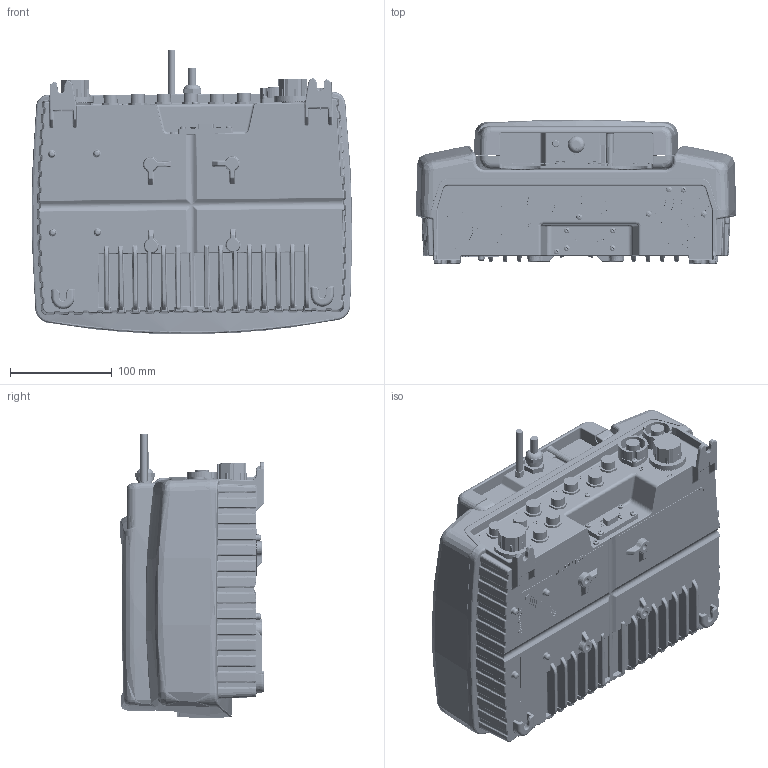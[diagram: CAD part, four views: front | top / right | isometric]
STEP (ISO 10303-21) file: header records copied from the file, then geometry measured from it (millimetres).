
FILE_DESCRIPTION (( 'STEP AP214' ), '1' );
FILE_NAME ('LXV402.TD.00000_SC1000 Displaymodul.STEP', '2011-09-20T06:53:17', ( 'helpdesk' ), ( 'Hach-Lange' ), 'SwSTEP 2.0', 'SolidWorks 2011', '' );
FILE_SCHEMA (( 'AUTOMOTIVE_DESIGN' ));
Length unit declared in the file: millimetre
Products named in the file (3): LXV400.TD.00000_SC1000; LXV402.TD_Displaymodul; LXV402.TD.00000_SC1000 Displaymodul
Assembly tree (2 placements, depth 2):
  LXV402.TD.00000_SC1000 Displaymodul
    LXV400.TD.00000_SC1000
    LXV402.TD_Displaymodul
Bounding box: 314.93 x 141.71 x 279.81 mm (x, y, z)
Volume: 1907406.5 mm3; surface area: 1028977.6 mm2
Topology: 10 solids, 10 shells, 10781 faces, 27319 edges, 16191 vertices
Faces by surface type: bspline 3105, plane 3046, cylinder 2870, torus 726, cone 570, sphere 464
Entity records: 440273 total; most frequent: CARTESIAN_POINT 186394, ORIENTED_EDGE 53598, DIRECTION 42787, EDGE_CURVE 26799, AXIS2_PLACEMENT_3D 16465, VERTEX_POINT 16186, EDGE_LOOP 11003, FACE_OUTER_BOUND 10781
